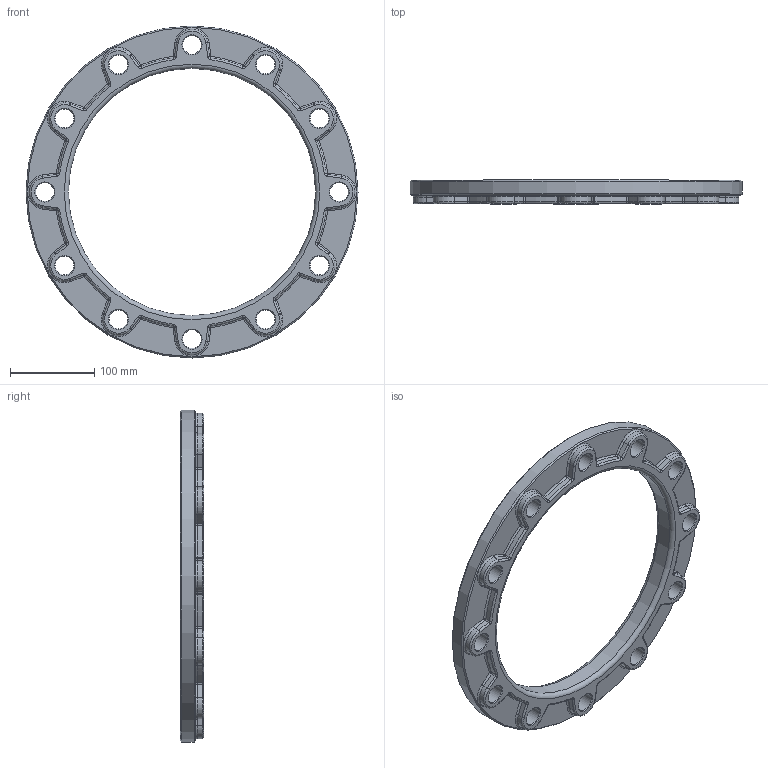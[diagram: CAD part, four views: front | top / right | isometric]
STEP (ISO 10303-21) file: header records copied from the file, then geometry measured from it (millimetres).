
FILE_DESCRIPTION(/* description */ ('Unknown'),/* implementation_level */ '2;1');
FILE_NAME(/* name */ 'FA280B',/* time_stamp */ '2022-07-21T10:47:12+02:00',/* author */ ('Unknown'),/* organization */ ('Unknown'),/* preprocessor_version */ 'ST-DEVELOPER v18.102',/* originating_system */ 'Solid Edge',/* authorisation */ 'Unknown');
FILE_SCHEMA (('AUTOMOTIVE_DESIGN {1 0 10303 214 3 1 1}'));
Length unit declared in the file: millimetre
Products named in the file (1): FA280B
Bounding box: 395 x 28 x 395 mm (x, y, z)
Volume: 1111256.8 mm3; surface area: 177521.3 mm2
Topology: 1 solids, 1 shells, 255 faces, 624 edges, 350 vertices
Faces by surface type: cylinder 108, torus 72, plane 27, cone 26, sphere 22
Full cylindrical faces by diameter (mm): 22 x12, 294 x1, 395 x1
Entity records: 6874 total; most frequent: DIRECTION 1386, CARTESIAN_POINT 1110, ORIENTED_EDGE 1048, AXIS2_PLACEMENT_3D 610, EDGE_CURVE 524, CIRCLE 354, EDGE_LOOP 324, FACE_BOUND 324
